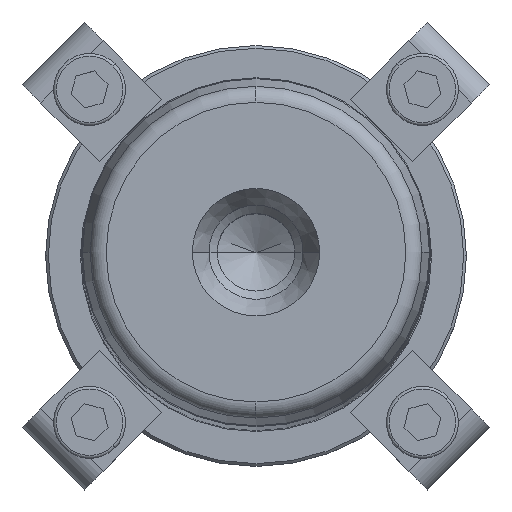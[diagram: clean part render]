
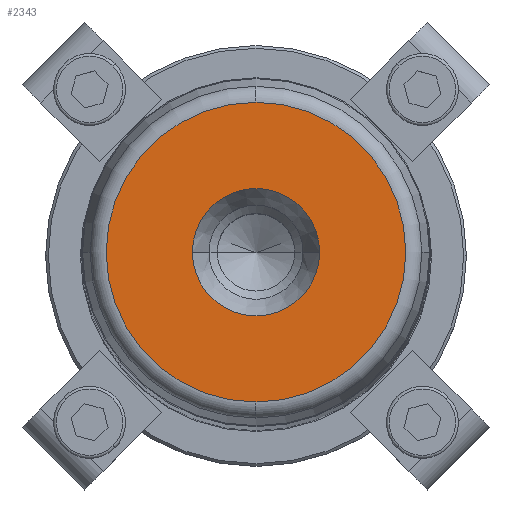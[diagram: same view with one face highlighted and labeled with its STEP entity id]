
A CAD part, top view. The second image highlights one B-rep face of the part: STEP entity #2343.
In plain terms, the highlighted planar face has unit normal (0, 0, 1).
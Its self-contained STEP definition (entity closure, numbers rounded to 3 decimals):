
#431=CARTESIAN_POINT('',(11.5,0.,400.0));
#432=VERTEX_POINT('',#431);
#439=CARTESIAN_POINT('',(-11.5,0.,400.0));
#440=VERTEX_POINT('',#439);
#441=CARTESIAN_POINT('',(0.0,0.,400.0));
#442=DIRECTION('',(0.0,0.0,1.0));
#443=DIRECTION('',(1.0,0.0,0.0));
#444=AXIS2_PLACEMENT_3D('',#441,#442,#443);
#445=CIRCLE('',#444,11.5);
#446=EDGE_CURVE('',#432,#440,#445,.T.);
#463=CARTESIAN_POINT('',(0.0,-27.054,400.0));
#464=VERTEX_POINT('',#463);
#474=CARTESIAN_POINT('',(0.,27.054,400.0));
#475=VERTEX_POINT('',#474);
#476=CARTESIAN_POINT('',(0.0,0.,400.0));
#477=DIRECTION('',(0.0,0.0,1.0));
#478=DIRECTION('',(1.0,0.0,0.0));
#479=AXIS2_PLACEMENT_3D('',#476,#477,#478);
#480=CIRCLE('',#479,27.054);
#481=EDGE_CURVE('',#475,#464,#480,.T.);
#2304=CARTESIAN_POINT('',(27.054,0.,400.0));
#2305=VERTEX_POINT('',#2304);
#2306=CARTESIAN_POINT('',(0.0,0.,400.0));
#2307=DIRECTION('',(0.0,0.0,1.0));
#2308=DIRECTION('',(1.0,0.0,0.0));
#2309=AXIS2_PLACEMENT_3D('',#2306,#2307,#2308);
#2310=CIRCLE('',#2309,27.054);
#2311=EDGE_CURVE('',#2305,#475,#2310,.T.);
#2313=CARTESIAN_POINT('',(0.0,0.,400.0));
#2314=DIRECTION('',(0.0,0.0,1.0));
#2315=DIRECTION('',(1.0,0.0,0.0));
#2316=AXIS2_PLACEMENT_3D('',#2313,#2314,#2315);
#2317=CIRCLE('',#2316,27.054);
#2318=EDGE_CURVE('',#464,#2305,#2317,.T.);
#2323=CARTESIAN_POINT('',(19.277,0.,400.0));
#2324=DIRECTION('',(0.0,0.0,1.0));
#2325=DIRECTION('',(0.0,-1.0,0.0));
#2326=AXIS2_PLACEMENT_3D('',#2323,#2324,#2325);
#2327=PLANE('',#2326);
#2328=ORIENTED_EDGE('',*,*,#2311,.T.);
#2329=ORIENTED_EDGE('',*,*,#481,.T.);
#2330=ORIENTED_EDGE('',*,*,#2318,.T.);
#2331=EDGE_LOOP('',(#2328,#2329,#2330));
#2332=FACE_OUTER_BOUND('',#2331,.T.);
#2333=ORIENTED_EDGE('',*,*,#446,.F.);
#2334=CARTESIAN_POINT('',(0.0,0.,400.0));
#2335=DIRECTION('',(0.0,0.0,1.0));
#2336=DIRECTION('',(1.0,0.0,0.0));
#2337=AXIS2_PLACEMENT_3D('',#2334,#2335,#2336);
#2338=CIRCLE('',#2337,11.5);
#2339=EDGE_CURVE('',#440,#432,#2338,.T.);
#2340=ORIENTED_EDGE('',*,*,#2339,.F.);
#2341=EDGE_LOOP('',(#2333,#2340));
#2342=FACE_BOUND('',#2341,.T.);
#2343=ADVANCED_FACE('',(#2332,#2342),#2327,.T.);
